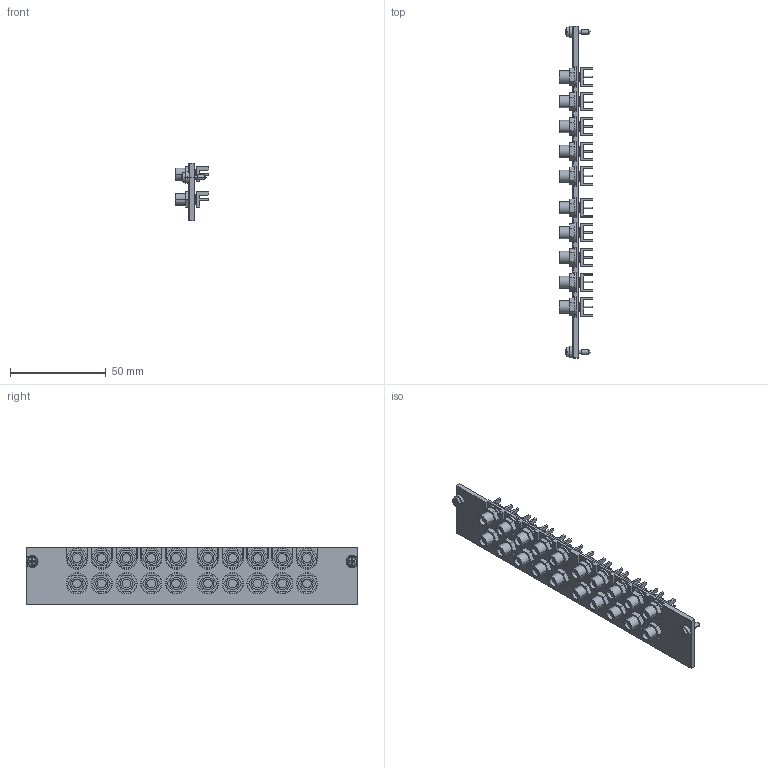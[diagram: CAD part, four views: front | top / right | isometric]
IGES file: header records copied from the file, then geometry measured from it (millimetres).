
Start section:  PTC IGES file: cu_scxi-1195.igs
Global section: file name: cu_scxi-1195.igs; native system: Pro/ENGINEER by Parametric Technology Corporation; preprocessor: 2006080; author: jjorden; organization: Unknown; date: 091130.151548; units: inch
Bounding box: 17.37 x 173.02 x 30.18 mm (x, y, z)
Surface area: 24965.7 mm2 (no closed solid volume)
Topology: 0 solids, 0 shells, 1351 faces, 6724 edges, 6720 vertices
Faces by surface type: bspline 921, revolution 430
